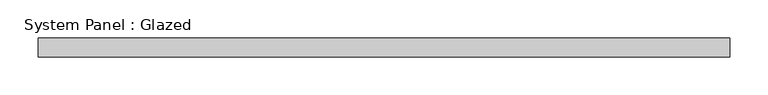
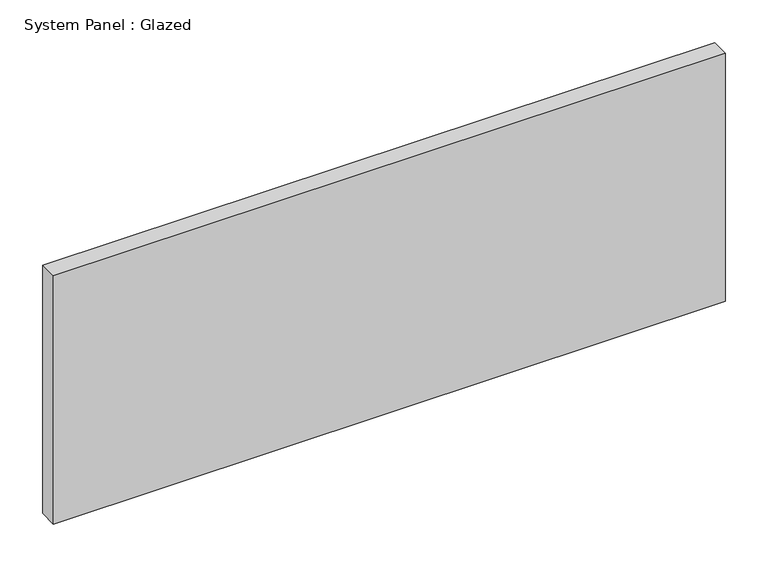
"""IFC4 building model written with IfcOpenShell, lengths in millimetres: plate geometry, System Panel : Glazed."""

from ifc_helpers import new_model, si_unit, origin, origin_with_axes, place, context, project, spatial, polyline, outline, extrude, source, transform, mapped, element, save


def system_panel_glazed_51b12ac9(model_context):
    return source(origin(), model_context, "Body", "SweptSolid", [
        extrude(outline(polyline([(454.52, -25.0), (-454.52, -25.0), (-454.52, 0.0), (454.52, 0.0), (454.52, -25.0)])), origin_with_axes(), (0.0, 0.0, 1.0), 355.0),
    ])


if __name__ == "__main__":
    model = new_model("IFC4")
    model_context = context("Model", 3, world=origin())
    ifc_project = project(units=[si_unit("LENGTHUNIT", "METRE", prefix="MILLI")], contexts=[model_context])
    site = spatial("IfcSite", under=ifc_project)
    building = spatial("IfcBuilding", under=site)
    placement = place(None, origin())
    system_panel_glazed_shape = system_panel_glazed_51b12ac9(model_context)
    element("IfcPlate", 1, ObjectType="System Panel : Glazed", at=placement, inside=building, context=model_context, shape_type="MappedRepresentation", body=[
        mapped(system_panel_glazed_shape, transform((0.0, 0.0, 0.0), x_axis=(1.0, 0.0, 0.0), y_axis=(0.0, 1.0, 0.0), z_axis=(0.0, 0.0, 1.0))),
    ])
    save(model, "model.ifc")
